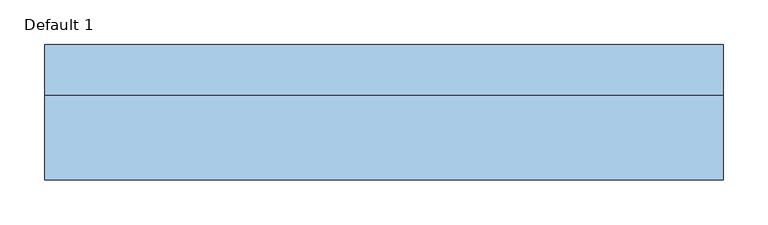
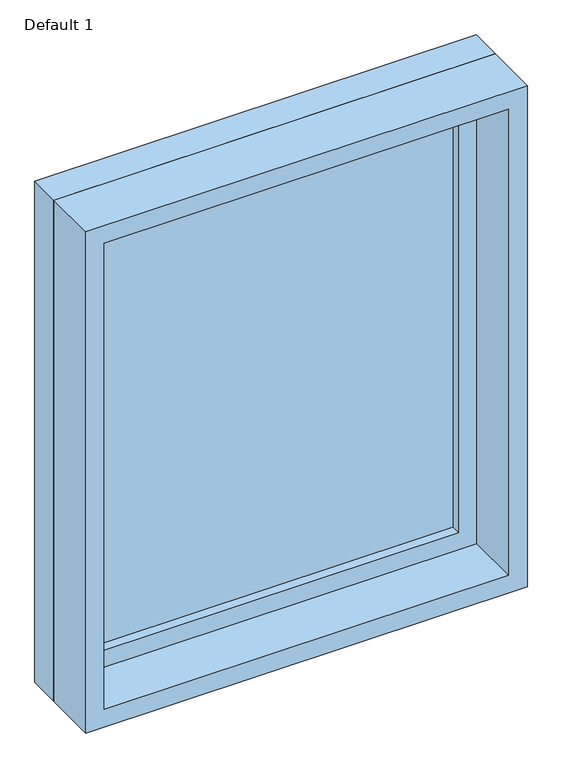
"""IFC4 building model written with IfcOpenShell, lengths in millimetres: window geometry, Planitar-Fixed : Default 1."""

from ifc_helpers import new_model, si_unit, frame, origin, place, context, project, spatial, polyline, outline, extrude, source, transform, mapped, element, save


def default_1_563e1f2a(model_context):
    return source(origin(), model_context, "Body", "SweptSolid", [
        extrude(outline(polyline([(1809.8, -362.0), (933.4, -362.0), (933.4, 362.0), (1809.8, 362.0), (1809.8, -362.0)]), holes=[polyline([(1765.8, -318.0), (1765.8, 318.0), (977.4, 318.0), (977.4, -318.0), (1765.8, -318.0)])]), frame((0.0, 32.5, 0.0), z_axis=(0.0, 1.0, 0.0), x_axis=(0.0, 0.0, 1.0)), (0.0, 0.0, 1.0), 44.0),
        extrude(outline(polyline([(1828.8, -381.0), (914.4, -381.0), (914.4, 381.0), (1828.8, 381.0), (1828.8, -381.0)]), holes=[polyline([(1809.8, -362.0), (1809.8, 362.0), (933.4, 362.0), (933.4, -362.0), (1809.8, -362.0)])]), frame((0.0, 32.5, 0.0), z_axis=(0.0, 1.0, 0.0), x_axis=(0.0, 0.0, 1.0)), (0.0, 0.0, 1.0), 56.7),
        extrude(outline(polyline([(1828.8, -381.0), (914.4, -381.0), (914.4, 381.0), (1828.8, 381.0), (1828.8, -381.0)]), holes=[polyline([(1796.8, -349.0), (1796.8, 349.0), (946.4, 349.0), (946.4, -349.0), (1796.8, -349.0)])]), frame((0.0, -63.2, 0.0), z_axis=(0.0, 1.0, 0.0), x_axis=(0.0, 0.0, 1.0)), (0.0, 0.0, 1.0), 95.7),
        extrude(outline(polyline([(-318.0, 60.5), (318.0, 60.5), (318.0, 48.5), (-318.0, 48.5), (-318.0, 60.5)])), frame((0.0, 0.0, 977.4), z_axis=(0.0, 0.0, 1.0), x_axis=(1.0, 0.0, 0.0)), (0.0, 0.0, 1.0), 788.4),
    ])


if __name__ == "__main__":
    model = new_model("IFC4")
    model_context = context("Model", 3, world=origin())
    ifc_project = project(units=[si_unit("LENGTHUNIT", "METRE", prefix="MILLI")], contexts=[model_context])
    site = spatial("IfcSite", under=ifc_project)
    building = spatial("IfcBuilding", under=site)
    placement = place(None, origin())
    default_1_shape = default_1_563e1f2a(model_context)
    element("IfcWindow", 1, ObjectType="Planitar-Fixed : Default 1", at=placement, inside=building, context=model_context, shape_type="MappedRepresentation", body=[
        mapped(default_1_shape, transform((0.0, 0.0, 0.0), x_axis=(1.0, 0.0, 0.0), y_axis=(0.0, 1.0, 0.0), z_axis=(0.0, 0.0, 1.0))),
    ])
    save(model, "model.ifc")
